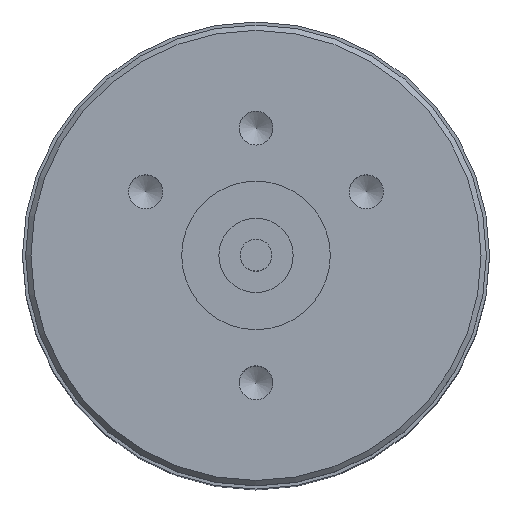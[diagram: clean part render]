
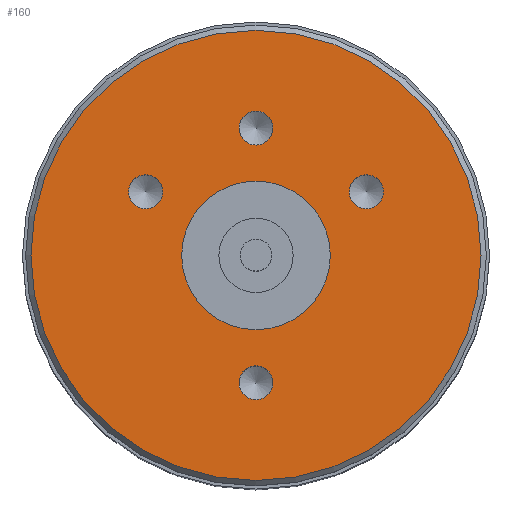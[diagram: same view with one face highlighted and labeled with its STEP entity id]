
A CAD part, top view. The second image highlights one B-rep face of the part: STEP entity #160.
In plain terms, the highlighted planar face has unit normal (0, 0, 1).
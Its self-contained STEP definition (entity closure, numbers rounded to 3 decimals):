
#160=ADVANCED_FACE('',(#278,#279,#280,#281,#282,#283),#200,.T.);
#200=PLANE('',#827);
#233=CIRCLE('',#820,3.5);
#234=CIRCLE('',#822,0.8);
#235=CIRCLE('',#823,0.8);
#236=CIRCLE('',#824,0.8);
#237=CIRCLE('',#825,0.8);
#238=CIRCLE('',#826,10.6);
#278=FACE_BOUND('',#333,.T.);
#279=FACE_BOUND('',#334,.T.);
#280=FACE_BOUND('',#335,.T.);
#281=FACE_BOUND('',#336,.T.);
#282=FACE_BOUND('',#337,.T.);
#283=FACE_BOUND('',#338,.T.);
#333=EDGE_LOOP('',(#422));
#334=EDGE_LOOP('',(#423));
#335=EDGE_LOOP('',(#424));
#336=EDGE_LOOP('',(#425));
#337=EDGE_LOOP('',(#426));
#338=EDGE_LOOP('',(#427));
#422=ORIENTED_EDGE('',*,*,#644,.T.);
#423=ORIENTED_EDGE('',*,*,#645,.T.);
#424=ORIENTED_EDGE('',*,*,#646,.T.);
#425=ORIENTED_EDGE('',*,*,#647,.T.);
#426=ORIENTED_EDGE('',*,*,#648,.T.);
#427=ORIENTED_EDGE('',*,*,#643,.F.);
#576=VERTEX_POINT('',#1166);
#577=VERTEX_POINT('',#1169);
#578=VERTEX_POINT('',#1171);
#579=VERTEX_POINT('',#1173);
#580=VERTEX_POINT('',#1175);
#581=VERTEX_POINT('',#1177);
#643=EDGE_CURVE('',#576,#576,#233,.T.);
#644=EDGE_CURVE('',#577,#577,#234,.T.);
#645=EDGE_CURVE('',#578,#578,#235,.T.);
#646=EDGE_CURVE('',#579,#579,#236,.T.);
#647=EDGE_CURVE('',#580,#580,#237,.T.);
#648=EDGE_CURVE('',#581,#581,#238,.T.);
#820=AXIS2_PLACEMENT_3D('',#1165,#949,#950);
#822=AXIS2_PLACEMENT_3D('',#1168,#953,#954);
#823=AXIS2_PLACEMENT_3D('',#1170,#955,#956);
#824=AXIS2_PLACEMENT_3D('',#1172,#957,#958);
#825=AXIS2_PLACEMENT_3D('',#1174,#959,#960);
#826=AXIS2_PLACEMENT_3D('',#1176,#961,#962);
#827=AXIS2_PLACEMENT_3D('',#1178,#963,#964);
#949=DIRECTION('',(0.,0.,1.));
#950=DIRECTION('',(1.,0.,0.));
#953=DIRECTION('',(0.,0.,-1.));
#954=DIRECTION('',(-0.5,0.866,0.));
#955=DIRECTION('',(0.,0.,-1.));
#956=DIRECTION('',(1.,0.,0.));
#957=DIRECTION('',(0.,0.,-1.));
#958=DIRECTION('',(-0.5,-0.866,0.));
#959=DIRECTION('',(0.,0.,-1.));
#960=DIRECTION('',(-1.,0.,0.));
#961=DIRECTION('',(0.,0.,1.));
#962=DIRECTION('',(1.,0.,0.));
#963=DIRECTION('',(0.,0.,1.));
#964=DIRECTION('',(1.,0.,0.));
#1165=CARTESIAN_POINT('',(0.,0.,32.6));
#1166=CARTESIAN_POINT('',(3.5,0.,32.6));
#1168=CARTESIAN_POINT('',(5.196,3.,32.6));
#1169=CARTESIAN_POINT('',(4.796,3.693,32.6));
#1170=CARTESIAN_POINT('',(0.,-6.,32.6));
#1171=CARTESIAN_POINT('',(0.8,-6.,32.6));
#1172=CARTESIAN_POINT('',(-5.196,3.,32.6));
#1173=CARTESIAN_POINT('',(-5.596,2.307,32.6));
#1174=CARTESIAN_POINT('',(0.,6.,32.6));
#1175=CARTESIAN_POINT('',(-0.8,6.,32.6));
#1176=CARTESIAN_POINT('',(0.,0.,32.6));
#1177=CARTESIAN_POINT('',(10.6,0.,32.6));
#1178=CARTESIAN_POINT('',(0.,3.5,32.6));
